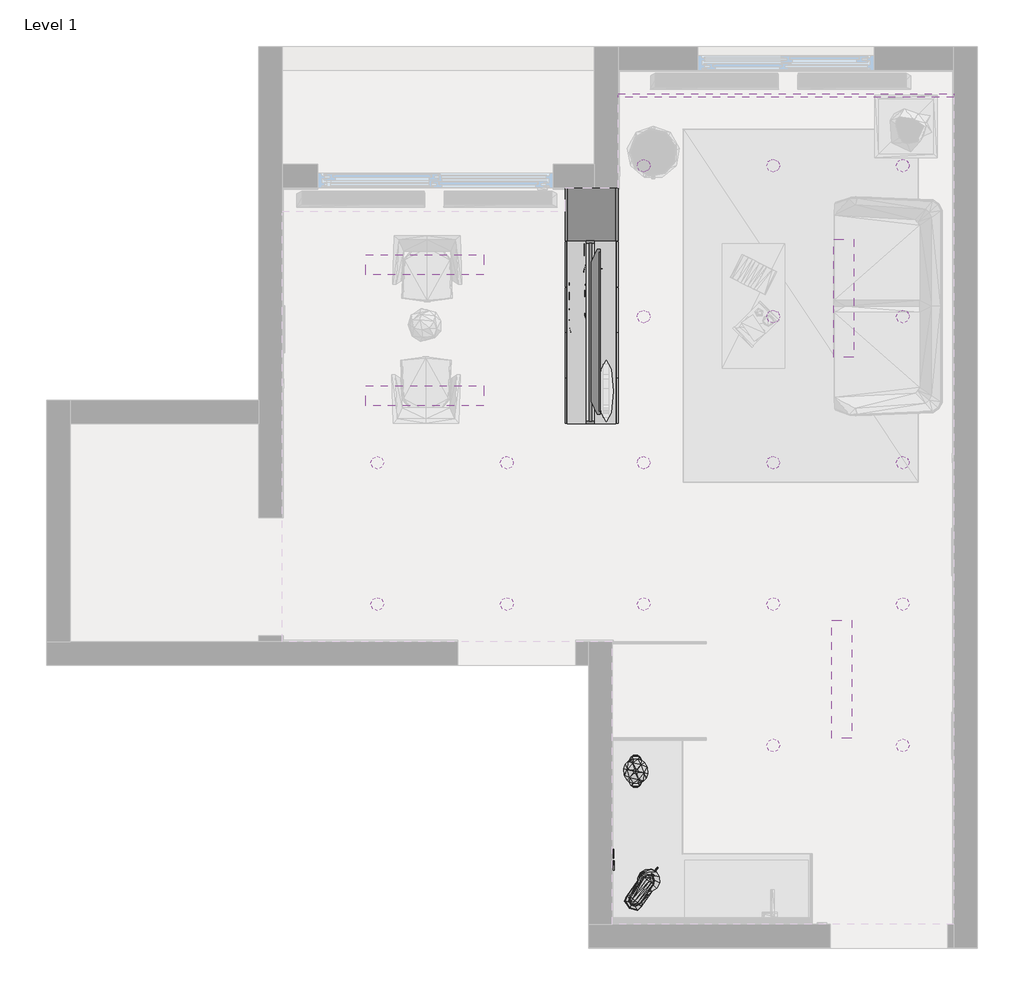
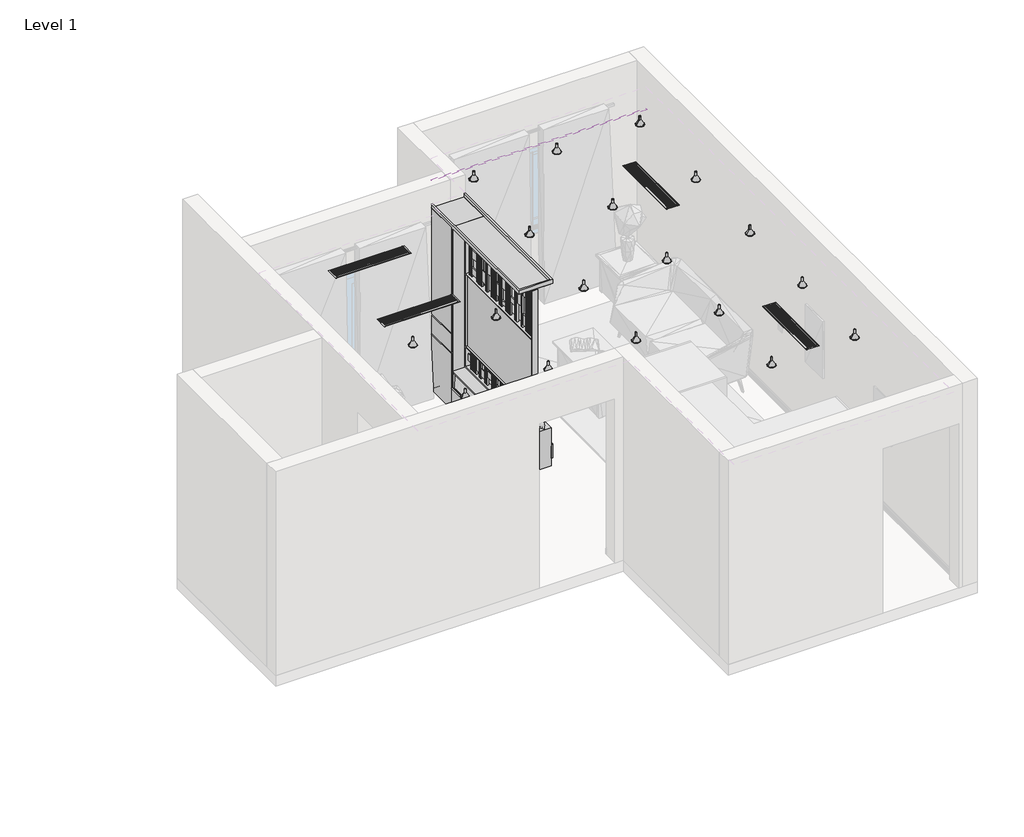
# One storey, part 2 of 4: 18 light fixtures, 5 geographic elements, 4 proxies, 2 furniture elements, 1 covering.
"""IFC4 building model written with IfcOpenShell, lengths in millimetres."""

from ifc_helpers import new_model, si_unit, frame, origin, place, context, project, spatial, polyline, outline, extrude, transform, mapped, element, save
from components import inlet_grid_ga15_3eb42ee2, entertainment_center_7110_entertainment_center_7110_d1725c8a, furniture_1_furniture_1_9f08c0cb, geographic_element_5e56941c, geographic_element_5fc2b1cc, enscape_assetdefinition_electric_mixer_enscape_68bc694c, enscape_assetdefinition_light_switch_enscape_assetdefinition_f65dbdaa, enscape_assetdefinition_power_socket_enscape_assetdefinition_6a6208d7, light_fixture_bf0697d5

model = new_model("IFC4")

# Units and contexts
model_context = context("Model", 3, world=origin())
ifc_project = project(units=[si_unit("LENGTHUNIT", "METRE", prefix="MILLI")], contexts=[model_context])

# Site, building, storey
site = spatial("IfcSite", under=ifc_project)
building = spatial("IfcBuilding", under=site)
storey = spatial("IfcBuildingStorey", under=building, Name="Level 1", Elevation=0.0)

# Proxies
placement = place(None, origin())
inlet_grid_ga15_shape = inlet_grid_ga15_3eb42ee2(model_context)
element("IfcBuildingElementProxy", 1, Name="HVAC_Accessories_Emmeti_Grid-GA : Inlet grid - GA15", ObjectType="HVAC_Accessories_Emmeti_Grid-GA : Inlet grid - GA15", at=placement, inside=storey, context=model_context, shape_type="MappedRepresentation", body=[
    mapped(inlet_grid_ga15_shape, transform((888.0838118, -566.9079454, 2599.0), x_axis=(0.0, -1.0, 0.0), y_axis=(0.0, 0.0, -1.0), z_axis=(1.0, 0.0, 0.0))),
])
element("IfcBuildingElementProxy", 2, Name="HVAC_Accessories_Emmeti_Grid-GA : Inlet grid - GA15", ObjectType="HVAC_Accessories_Emmeti_Grid-GA : Inlet grid - GA15", at=placement, inside=storey, context=model_context, shape_type="MappedRepresentation", body=[
    mapped(inlet_grid_ga15_shape, transform((-2782.1161882, -1111.2192408, 2599.0), x_axis=(-1.0, 0.0, 0.0), y_axis=(0.0, 0.0, -1.0), z_axis=(0.0, -1.0, 0.0))),
])
element("IfcBuildingElementProxy", 3, Name="HVAC_Accessories_Emmeti_Grid-GA : Inlet grid - GA15", ObjectType="HVAC_Accessories_Emmeti_Grid-GA : Inlet grid - GA15", at=placement, inside=storey, context=model_context, shape_type="MappedRepresentation", body=[
    mapped(inlet_grid_ga15_shape, transform((-2782.1161882, 2.4659434, 2599.0), x_axis=(-1.0, 0.0, 0.0), y_axis=(0.0, 0.0, -1.0), z_axis=(0.0, -1.0, 0.0))),
])
element("IfcBuildingElementProxy", 4, Name="HVAC_Accessories_Emmeti_Grid-GA : Inlet grid - GA15", ObjectType="HVAC_Accessories_Emmeti_Grid-GA : Inlet grid - GA15", at=placement, inside=storey, context=model_context, shape_type="MappedRepresentation", body=[
    mapped(inlet_grid_ga15_shape, transform((872.7021134, -3801.0760728, 2599.0), x_axis=(0.0, -1.0, 0.0), y_axis=(0.0, 0.0, -1.0), z_axis=(1.0, 0.0, 0.0))),
])

# Covering
element("IfcCovering", 5, ObjectType="600 x 1200mm Grid 2", at=placement, inside=storey, context=model_context, shape_type="SweptSolid", body=[
    extrude(outline(polyline([(-3792.1161882, 368.9239272), (-1392.1161882, 368.9239272), (-1392.1161882, 338.9239272), (-3792.1161882, 338.9239272), (-3792.1161882, 368.9239272)])), frame((0.0, 0.0, 2300.0), z_axis=(0.0, 0.0, 1.0), x_axis=(1.0, 0.0, 0.0)), (0.0, 0.0, 1.0), 300.0),
    extrude(outline(polyline([(-942.1161882, 1368.9239272), (1907.8838118, 1368.9239272), (1907.8838118, 1338.9239272), (-942.1161882, 1338.9239272), (-942.1161882, 1368.9239272)])), frame((0.0, 0.0, 2300.0), z_axis=(0.0, 0.0, 1.0), x_axis=(1.0, 0.0, 0.0)), (0.0, 0.0, 1.0), 300.0),
])

# Furniture
entertainment_center_7110_entertainment_center_7110_shape = entertainment_center_7110_entertainment_center_7110_d1725c8a(model_context)
element("IfcFurniture", 6, ObjectType="Entertainment_Center_7110 : Entertainment_Center_7110", at=placement, inside=storey, context=model_context, shape_type="MappedRepresentation", body=[
    mapped(entertainment_center_7110_entertainment_center_7110_shape, transform((-865.7950146, -579.0616534, -90.0), x_axis=(0.0, 1.0, 0.0), y_axis=(-1.0, 0.0, 0.0), z_axis=(0.0, 0.0, 1.0))),
])
furniture_1_furniture_1_shape = furniture_1_furniture_1_9f08c0cb(model_context)
element("IfcFurniture", 7, ObjectType="Furniture 1 : Furniture 1", at=placement, inside=storey, context=model_context, shape_type="MappedRepresentation", body=[
    mapped(furniture_1_furniture_1_shape, transform((0.0, 0.0, 0.0), x_axis=(1.0, 0.0, 0.0), y_axis=(0.0, 1.0, 0.0), z_axis=(0.0, 0.0, 1.0))),
])

# Geographic elements
geographic_element_shape = geographic_element_5e56941c(model_context)
element("IfcGeographicElement", 8, ObjectType="Enscape AssetDefinition - Cooking plate : Enscape AssetDefinition - Cooking plate", at=placement, inside=storey, context=model_context, shape_type="MappedRepresentation", body=[
    mapped(geographic_element_shape, transform((-692.1161882, -4501.0760728, 831.9), x_axis=(0.0, 1.0, 0.0), y_axis=(-1.0, 0.0, 0.0), z_axis=(0.0, 0.0, 1.0))),
])
geographic_element_2_shape = geographic_element_5fc2b1cc(model_context)
element("IfcGeographicElement", 9, ObjectType="Enscape AssetDefinition - Stew Pot : Enscape AssetDefinition - Stew Pot", at=placement, inside=storey, context=model_context, shape_type="MappedRepresentation", body=[
    mapped(geographic_element_2_shape, transform((-792.1161882, -4381.0760728, 831.9), x_axis=(1.0, 0.0, 0.0), y_axis=(0.0, 1.0, 0.0), z_axis=(0.0, 0.0, 1.0))),
])
enscape_assetdefinition_electric_mixer_enscape_shape = enscape_assetdefinition_electric_mixer_enscape_68bc694c(model_context)
element("IfcGeographicElement", 10, ObjectType="Enscape AssetDefinition - Electric Mixer : Enscape AssetDefinition - Electric Mixer", at=placement, inside=storey, context=model_context, shape_type="MappedRepresentation", body=[
    mapped(enscape_assetdefinition_electric_mixer_enscape_shape, transform((-729.8269556, -5376.437995, 831.929482), x_axis=(-0.8189777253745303, 0.5738253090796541, 0.0), y_axis=(-0.5738253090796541, -0.8189777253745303, 0.0), z_axis=(0.0, 0.0, 1.0))),
])
enscape_assetdefinition_light_switch_enscape_assetdefinition_shape = enscape_assetdefinition_light_switch_enscape_assetdefinition_f65dbdaa(model_context)
element("IfcGeographicElement", 11, ObjectType="Enscape AssetDefinition - Light Switch : Enscape AssetDefinition - Light Switch", at=placement, inside=storey, context=model_context, shape_type="MappedRepresentation", body=[
    mapped(enscape_assetdefinition_light_switch_enscape_assetdefinition_shape, transform((-987.1161882, -5181.0760728, 1100.0), x_axis=(0.0, 1.0, 0.0), y_axis=(-1.0, 0.0, 0.0), z_axis=(0.0, 0.0, 1.0))),
])
enscape_assetdefinition_power_socket_enscape_assetdefinition_shape = enscape_assetdefinition_power_socket_enscape_assetdefinition_6a6208d7(model_context)
element("IfcGeographicElement", 12, ObjectType="Enscape AssetDefinition - Power Socket : Enscape AssetDefinition - Power Socket", at=placement, inside=storey, context=model_context, shape_type="MappedRepresentation", body=[
    mapped(enscape_assetdefinition_power_socket_enscape_assetdefinition_shape, transform((-987.1161882, -5081.0760728, 1100.0), x_axis=(0.0, 1.0, 0.0), y_axis=(-1.0, 0.0, 0.0), z_axis=(0.0, 0.0, 1.0))),
])

# Light fixtures
light_fixture_shape = light_fixture_bf0697d5(model_context)
element("IfcLightFixture", 13, ObjectType="CS HALLA RAVO (vestavné) : CS HALLA RAVO (vestavné)", at=placement, inside=storey, context=model_context, shape_type="MappedRepresentation", body=[
    mapped(light_fixture_shape, transform((-2984.9503587, -2962.4738533, 2600.0), x_axis=(1.0, 0.0, 0.0), y_axis=(0.0, -1.0, 0.0), z_axis=(0.0, 0.0, -1.0))),
])
element("IfcLightFixture", 14, ObjectType="CS HALLA RAVO (vestavné) : CS HALLA RAVO (vestavné)", at=placement, inside=storey, context=model_context, shape_type="MappedRepresentation", body=[
    mapped(light_fixture_shape, transform((-2984.9503587, -1762.4738533, 2600.0), x_axis=(1.0, 0.0, 0.0), y_axis=(0.0, -1.0, 0.0), z_axis=(0.0, 0.0, -1.0))),
])
element("IfcLightFixture", 15, ObjectType="CS HALLA RAVO (vestavné) : CS HALLA RAVO (vestavné)", at=placement, inside=storey, context=model_context, shape_type="MappedRepresentation", body=[
    mapped(light_fixture_shape, transform((-1884.9503587, -2962.4738533, 2600.0), x_axis=(1.0, 0.0, 0.0), y_axis=(0.0, -1.0, 0.0), z_axis=(0.0, 0.0, -1.0))),
])
element("IfcLightFixture", 16, ObjectType="CS HALLA RAVO (vestavné) : CS HALLA RAVO (vestavné)", at=placement, inside=storey, context=model_context, shape_type="MappedRepresentation", body=[
    mapped(light_fixture_shape, transform((-1884.9503587, -1762.4738533, 2600.0), x_axis=(1.0, 0.0, 0.0), y_axis=(0.0, -1.0, 0.0), z_axis=(0.0, 0.0, -1.0))),
])
element("IfcLightFixture", 17, ObjectType="CS HALLA RAVO (vestavné) : CS HALLA RAVO (vestavné)", at=placement, inside=storey, context=model_context, shape_type="MappedRepresentation", body=[
    mapped(light_fixture_shape, transform((-724.9503587, -2962.4738533, 2600.0), x_axis=(1.0, 0.0, 0.0), y_axis=(0.0, -1.0, 0.0), z_axis=(0.0, 0.0, -1.0))),
])
element("IfcLightFixture", 18, ObjectType="CS HALLA RAVO (vestavné) : CS HALLA RAVO (vestavné)", at=placement, inside=storey, context=model_context, shape_type="MappedRepresentation", body=[
    mapped(light_fixture_shape, transform((-724.9503587, -1762.4738533, 2600.0), x_axis=(1.0, 0.0, 0.0), y_axis=(0.0, -1.0, 0.0), z_axis=(0.0, 0.0, -1.0))),
])
element("IfcLightFixture", 19, ObjectType="CS HALLA RAVO (vestavné) : CS HALLA RAVO (vestavné)", at=placement, inside=storey, context=model_context, shape_type="MappedRepresentation", body=[
    mapped(light_fixture_shape, transform((375.0496413, -2962.4738533, 2600.0), x_axis=(1.0, 0.0, 0.0), y_axis=(0.0, -1.0, 0.0), z_axis=(0.0, 0.0, -1.0))),
])
element("IfcLightFixture", 20, ObjectType="CS HALLA RAVO (vestavné) : CS HALLA RAVO (vestavné)", at=placement, inside=storey, context=model_context, shape_type="MappedRepresentation", body=[
    mapped(light_fixture_shape, transform((375.0496413, -1762.4738533, 2600.0), x_axis=(1.0, 0.0, 0.0), y_axis=(0.0, -1.0, 0.0), z_axis=(0.0, 0.0, -1.0))),
])
element("IfcLightFixture", 21, ObjectType="CS HALLA RAVO (vestavné) : CS HALLA RAVO (vestavné)", at=placement, inside=storey, context=model_context, shape_type="MappedRepresentation", body=[
    mapped(light_fixture_shape, transform((1475.0496413, -2962.4738533, 2600.0), x_axis=(1.0, 0.0, 0.0), y_axis=(0.0, -1.0, 0.0), z_axis=(0.0, 0.0, -1.0))),
])
element("IfcLightFixture", 22, ObjectType="CS HALLA RAVO (vestavné) : CS HALLA RAVO (vestavné)", at=placement, inside=storey, context=model_context, shape_type="MappedRepresentation", body=[
    mapped(light_fixture_shape, transform((1475.0496413, -1762.4738533, 2600.0), x_axis=(1.0, 0.0, 0.0), y_axis=(0.0, -1.0, 0.0), z_axis=(0.0, 0.0, -1.0))),
])
element("IfcLightFixture", 23, ObjectType="CS HALLA RAVO (vestavné) : CS HALLA RAVO (vestavné)", at=placement, inside=storey, context=model_context, shape_type="MappedRepresentation", body=[
    mapped(light_fixture_shape, transform((375.0496413, -4162.4738533, 2600.0), x_axis=(1.0, 0.0, 0.0), y_axis=(0.0, -1.0, 0.0), z_axis=(0.0, 0.0, -1.0))),
])
element("IfcLightFixture", 24, ObjectType="CS HALLA RAVO (vestavné) : CS HALLA RAVO (vestavné)", at=placement, inside=storey, context=model_context, shape_type="MappedRepresentation", body=[
    mapped(light_fixture_shape, transform((1475.0496413, -4162.4738533, 2600.0), x_axis=(1.0, 0.0, 0.0), y_axis=(0.0, -1.0, 0.0), z_axis=(0.0, 0.0, -1.0))),
])
element("IfcLightFixture", 25, ObjectType="CS HALLA RAVO (vestavné) : CS HALLA RAVO (vestavné)", at=placement, inside=storey, context=model_context, shape_type="MappedRepresentation", body=[
    mapped(light_fixture_shape, transform((-724.9503587, -522.4738533, 2600.0), x_axis=(1.0, 0.0, 0.0), y_axis=(0.0, -1.0, 0.0), z_axis=(0.0, 0.0, -1.0))),
])
element("IfcLightFixture", 26, ObjectType="CS HALLA RAVO (vestavné) : CS HALLA RAVO (vestavné)", at=placement, inside=storey, context=model_context, shape_type="MappedRepresentation", body=[
    mapped(light_fixture_shape, transform((375.0496413, -522.4738533, 2600.0), x_axis=(1.0, 0.0, 0.0), y_axis=(0.0, -1.0, 0.0), z_axis=(0.0, 0.0, -1.0))),
])
element("IfcLightFixture", 27, ObjectType="CS HALLA RAVO (vestavné) : CS HALLA RAVO (vestavné)", at=placement, inside=storey, context=model_context, shape_type="MappedRepresentation", body=[
    mapped(light_fixture_shape, transform((1475.0496413, -522.4738533, 2600.0), x_axis=(1.0, 0.0, 0.0), y_axis=(0.0, -1.0, 0.0), z_axis=(0.0, 0.0, -1.0))),
])
element("IfcLightFixture", 28, ObjectType="CS HALLA RAVO (vestavné) : CS HALLA RAVO (vestavné)", at=placement, inside=storey, context=model_context, shape_type="MappedRepresentation", body=[
    mapped(light_fixture_shape, transform((-724.9503587, 757.5261467, 2600.0), x_axis=(1.0, 0.0, 0.0), y_axis=(0.0, -1.0, 0.0), z_axis=(0.0, 0.0, -1.0))),
])
element("IfcLightFixture", 29, ObjectType="CS HALLA RAVO (vestavné) : CS HALLA RAVO (vestavné)", at=placement, inside=storey, context=model_context, shape_type="MappedRepresentation", body=[
    mapped(light_fixture_shape, transform((375.0496413, 757.5261467, 2600.0), x_axis=(1.0, 0.0, 0.0), y_axis=(0.0, -1.0, 0.0), z_axis=(0.0, 0.0, -1.0))),
])
element("IfcLightFixture", 30, ObjectType="CS HALLA RAVO (vestavné) : CS HALLA RAVO (vestavné)", at=placement, inside=storey, context=model_context, shape_type="MappedRepresentation", body=[
    mapped(light_fixture_shape, transform((1475.0496413, 757.5261467, 2600.0), x_axis=(1.0, 0.0, 0.0), y_axis=(0.0, -1.0, 0.0), z_axis=(0.0, 0.0, -1.0))),
])

save(model, "model.ifc")
